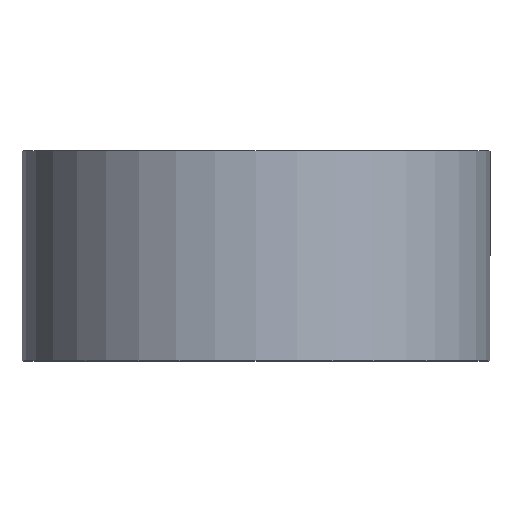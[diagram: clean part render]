
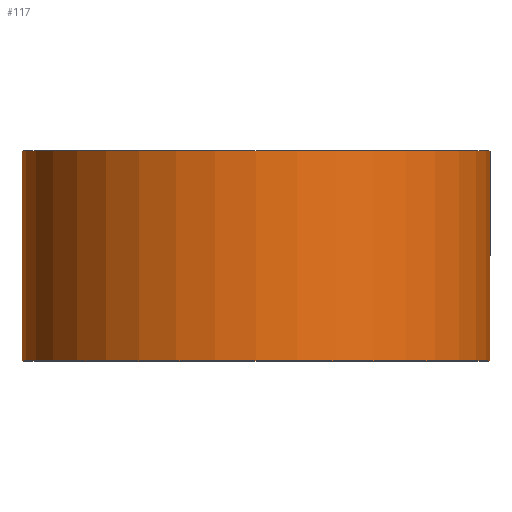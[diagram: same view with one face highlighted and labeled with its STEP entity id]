
A CAD part, top view. The second image highlights one B-rep face of the part: STEP entity #117.
In plain terms, the highlighted cylindrical face has radius 39 mm (diameter 78 mm), a partial arc.
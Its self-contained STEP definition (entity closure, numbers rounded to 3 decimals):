
#13 = CARTESIAN_POINT ( 'NONE',  ( -39., 0., 0. ) ) ;
#20 = LINE ( 'NONE', #185, #120 ) ;
#28 = EDGE_CURVE ( 'NONE', #298, #190, #20, .T. ) ;
#39 = FACE_OUTER_BOUND ( 'NONE', #268, .T. ) ;
#41 = EDGE_CURVE ( 'NONE', #222, #298, #148, .T. ) ;
#51 = CARTESIAN_POINT ( 'NONE',  ( 39., 0., 0. ) ) ;
#84 = DIRECTION ( 'NONE',  ( 0., 1., 0. ) ) ;
#102 = CIRCLE ( 'NONE', #131, 39. ) ;
#103 = EDGE_CURVE ( 'NONE', #289, #190, #102, .T. ) ;
#105 = CARTESIAN_POINT ( 'NONE',  ( 0., 0., 0. ) ) ;
#107 = DIRECTION ( 'NONE',  ( 0., 1., 0. ) ) ;
#110 = CARTESIAN_POINT ( 'NONE',  ( -39., 0., 0. ) ) ;
#117 = ADVANCED_FACE ( 'NONE', ( #39 ), #296, .T. ) ;
#118 = AXIS2_PLACEMENT_3D ( 'NONE', #191, #107, #270 ) ;
#120 = VECTOR ( 'NONE', #126, 1000. ) ;
#126 = DIRECTION ( 'NONE',  ( 0., 1., 0. ) ) ;
#131 = AXIS2_PLACEMENT_3D ( 'NONE', #197, #277, #165 ) ;
#134 = CARTESIAN_POINT ( 'NONE',  ( -39., 35., 0. ) ) ;
#142 = AXIS2_PLACEMENT_3D ( 'NONE', #105, #84, #221 ) ;
#146 = ORIENTED_EDGE ( 'NONE', *, *, #103, .F. ) ;
#148 = CIRCLE ( 'NONE', #118, 39. ) ;
#158 = VECTOR ( 'NONE', #169, 1000. ) ;
#165 = DIRECTION ( 'NONE',  ( -1., 0., 0. ) ) ;
#169 = DIRECTION ( 'NONE',  ( 0., 1., 0. ) ) ;
#185 = CARTESIAN_POINT ( 'NONE',  ( 39., 0., 0. ) ) ;
#190 = VERTEX_POINT ( 'NONE', #274 ) ;
#191 = CARTESIAN_POINT ( 'NONE',  ( 0., 0., 0. ) ) ;
#197 = CARTESIAN_POINT ( 'NONE',  ( 0., 35., 0. ) ) ;
#219 = EDGE_CURVE ( 'NONE', #222, #289, #261, .T. ) ;
#221 = DIRECTION ( 'NONE',  ( -1., 0., 0. ) ) ;
#222 = VERTEX_POINT ( 'NONE', #13 ) ;
#236 = ORIENTED_EDGE ( 'NONE', *, *, #28, .T. ) ;
#252 = ORIENTED_EDGE ( 'NONE', *, *, #219, .F. ) ;
#261 = LINE ( 'NONE', #110, #158 ) ;
#268 = EDGE_LOOP ( 'NONE', ( #278, #236, #146, #252 ) ) ;
#270 = DIRECTION ( 'NONE',  ( -1., 0., 0. ) ) ;
#274 = CARTESIAN_POINT ( 'NONE',  ( 39., 35., 0. ) ) ;
#277 = DIRECTION ( 'NONE',  ( 0., 1., 0. ) ) ;
#278 = ORIENTED_EDGE ( 'NONE', *, *, #41, .T. ) ;
#289 = VERTEX_POINT ( 'NONE', #134 ) ;
#296 = CYLINDRICAL_SURFACE ( 'NONE', #142, 39. ) ;
#298 = VERTEX_POINT ( 'NONE', #51 ) ;
